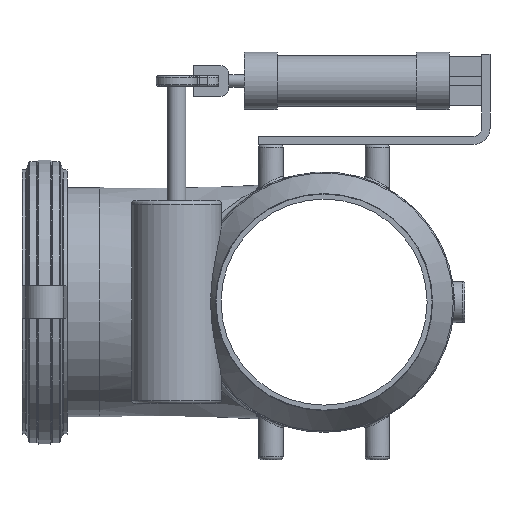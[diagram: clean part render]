
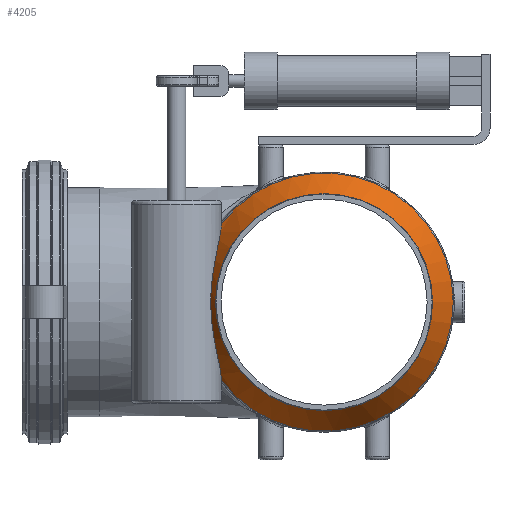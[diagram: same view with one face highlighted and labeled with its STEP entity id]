
A CAD part, left-side view. The second image highlights one B-rep face of the part: STEP entity #4205.
In plain terms, the highlighted conical face has half-angle 30 degrees and reference radius 184.256 mm.
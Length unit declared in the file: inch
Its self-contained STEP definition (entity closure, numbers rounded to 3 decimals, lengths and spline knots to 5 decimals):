
#80=CONICAL_SURFACE('',#4642,7.25419,0.524);
#182=B_SPLINE_CURVE_WITH_KNOTS('',3,(#8837,#8838,#8839,#8840,#8841,#8842,
#8843,#8844,#8845,#8846,#8847,#8848,#8849,#8850,#8851,#8852,#8853,#8854,
#8855,#8856,#8857,#8858,#8859,#8860,#8861,#8862,#8863,#8864,#8865,#8866),
 .UNSPECIFIED.,.F.,.F.,(4,2,2,2,2,2,2,2,2,2,2,2,2,2,4),(22.39908,
22.67746,25.83409,28.99072,30.56903,32.14734,
33.72566,35.30397,36.88228,38.4606,40.03891,
41.61723,44.77385,47.93048,48.20886),
 .UNSPECIFIED.);
#540=FACE_OUTER_BOUND('',#790,.T.);
#790=EDGE_LOOP('',(#3572,#3573,#3574,#3575,#3576,#3577,#3578,#3579));
#1032=LINE('',#9022,#1263);
#1263=VECTOR('',#5750,7.25419);
#1484=CIRCLE('',#4643,6.62546);
#1485=CIRCLE('',#4644,6.62546);
#1486=CIRCLE('',#4645,7.88292);
#1487=CIRCLE('',#4646,7.88292);
#1488=CIRCLE('',#4647,6.62546);
#1848=VERTEX_POINT('',#8827);
#1849=VERTEX_POINT('',#8836);
#1867=VERTEX_POINT('',#9016);
#1868=VERTEX_POINT('',#9017);
#1869=VERTEX_POINT('',#9019);
#1870=VERTEX_POINT('',#9021);
#2398=EDGE_CURVE('',#1849,#1848,#182,.T.);
#2447=EDGE_CURVE('',#1867,#1868,#1484,.T.);
#2448=EDGE_CURVE('',#1869,#1867,#1485,.T.);
#2449=EDGE_CURVE('',#1869,#1870,#1032,.T.);
#2450=EDGE_CURVE('',#1870,#1849,#1486,.T.);
#2451=EDGE_CURVE('',#1848,#1870,#1487,.T.);
#2452=EDGE_CURVE('',#1868,#1869,#1488,.T.);
#3572=ORIENTED_EDGE('',*,*,#2447,.F.);
#3573=ORIENTED_EDGE('',*,*,#2448,.F.);
#3574=ORIENTED_EDGE('',*,*,#2449,.T.);
#3575=ORIENTED_EDGE('',*,*,#2450,.T.);
#3576=ORIENTED_EDGE('',*,*,#2398,.T.);
#3577=ORIENTED_EDGE('',*,*,#2451,.T.);
#3578=ORIENTED_EDGE('',*,*,#2449,.F.);
#3579=ORIENTED_EDGE('',*,*,#2452,.F.);
#4205=ADVANCED_FACE('',(#540),#80,.T.);
#4642=AXIS2_PLACEMENT_3D('',#9015,#5744,#5745);
#4643=AXIS2_PLACEMENT_3D('',#9018,#5746,#5747);
#4644=AXIS2_PLACEMENT_3D('',#9020,#5748,#5749);
#4645=AXIS2_PLACEMENT_3D('',#9023,#5751,#5752);
#4646=AXIS2_PLACEMENT_3D('',#9024,#5753,#5754);
#4647=AXIS2_PLACEMENT_3D('',#9025,#5755,#5756);
#5744=DIRECTION('center_axis',(1.,0.,0.));
#5745=DIRECTION('ref_axis',(0.,1.,0.));
#5746=DIRECTION('center_axis',(-1.,0.,0.));
#5747=DIRECTION('ref_axis',(0.,0.,1.));
#5748=DIRECTION('center_axis',(-1.,0.,0.));
#5749=DIRECTION('ref_axis',(0.,0.,1.));
#5750=DIRECTION('',(0.866,-0.5,0.));
#5751=DIRECTION('center_axis',(-1.,0.,0.));
#5752=DIRECTION('ref_axis',(0.,0.,1.));
#5753=DIRECTION('center_axis',(-1.,0.,0.));
#5754=DIRECTION('ref_axis',(0.,0.,1.));
#5755=DIRECTION('center_axis',(-1.,0.,0.));
#5756=DIRECTION('ref_axis',(0.,0.,1.));
#8827=CARTESIAN_POINT('',(-6.86618,6.26246,-4.78769));
#8836=CARTESIAN_POINT('',(-6.86618,6.26246,4.78769));
#8837=CARTESIAN_POINT('Ctrl Pts',(-6.86618,6.26246,4.78769));
#8838=CARTESIAN_POINT('Ctrl Pts',(-6.89253,6.26358,4.76118));
#8839=CARTESIAN_POINT('Ctrl Pts',(-6.91828,6.26506,4.73463));
#8840=CARTESIAN_POINT('Ctrl Pts',(-7.22797,6.28697,4.40779));
#8841=CARTESIAN_POINT('Ctrl Pts',(-7.47308,6.34813,4.07005));
#8842=CARTESIAN_POINT('Ctrl Pts',(-7.8839,6.4961,3.33883));
#8843=CARTESIAN_POINT('Ctrl Pts',(-8.04907,6.58294,2.94504));
#8844=CARTESIAN_POINT('Ctrl Pts',(-8.23974,6.69917,2.33023));
#8845=CARTESIAN_POINT('Ctrl Pts',(-8.29391,6.7357,2.12122));
#8846=CARTESIAN_POINT('Ctrl Pts',(-8.3848,6.80042,1.69864));
#8847=CARTESIAN_POINT('Ctrl Pts',(-8.42153,6.82861,1.48508));
#8848=CARTESIAN_POINT('Ctrl Pts',(-8.4791,6.87417,1.05731));
#8849=CARTESIAN_POINT('Ctrl Pts',(-8.49995,6.89154,0.84308));
#8850=CARTESIAN_POINT('Ctrl Pts',(-8.52728,6.91453,0.41799));
#8851=CARTESIAN_POINT('Ctrl Pts',(-8.53376,6.92015,0.20713));
#8852=CARTESIAN_POINT('Ctrl Pts',(-8.53376,6.92015,-0.20713));
#8853=CARTESIAN_POINT('Ctrl Pts',(-8.52728,6.91453,-0.41799));
#8854=CARTESIAN_POINT('Ctrl Pts',(-8.49995,6.89154,-0.84308));
#8855=CARTESIAN_POINT('Ctrl Pts',(-8.4791,6.87417,-1.05731));
#8856=CARTESIAN_POINT('Ctrl Pts',(-8.42153,6.82861,-1.48508));
#8857=CARTESIAN_POINT('Ctrl Pts',(-8.3848,6.80042,-1.69864));
#8858=CARTESIAN_POINT('Ctrl Pts',(-8.29391,6.7357,-2.12122));
#8859=CARTESIAN_POINT('Ctrl Pts',(-8.23974,6.69917,-2.33023));
#8860=CARTESIAN_POINT('Ctrl Pts',(-8.04907,6.58294,-2.94504));
#8861=CARTESIAN_POINT('Ctrl Pts',(-7.8839,6.4961,-3.33883));
#8862=CARTESIAN_POINT('Ctrl Pts',(-7.47308,6.34813,-4.07005));
#8863=CARTESIAN_POINT('Ctrl Pts',(-7.22797,6.28697,-4.40779));
#8864=CARTESIAN_POINT('Ctrl Pts',(-6.91828,6.26506,-4.73463));
#8865=CARTESIAN_POINT('Ctrl Pts',(-6.89253,6.26358,-4.76118));
#8866=CARTESIAN_POINT('Ctrl Pts',(-6.86618,6.26246,-4.78769));
#9015=CARTESIAN_POINT('Origin',(-7.95518,0.,0.));
#9016=CARTESIAN_POINT('',(-9.04418,6.62546,0.));
#9017=CARTESIAN_POINT('',(-9.04418,0.,-6.62546));
#9018=CARTESIAN_POINT('Origin',(-9.04418,0.,0.));
#9019=CARTESIAN_POINT('',(-9.04418,-6.62546,0.));
#9020=CARTESIAN_POINT('Origin',(-9.04418,0.,0.));
#9021=CARTESIAN_POINT('',(-6.86618,-7.88292,0.));
#9022=CARTESIAN_POINT('',(-7.95518,-7.25419,0.));
#9023=CARTESIAN_POINT('Origin',(-6.86618,0.,0.));
#9024=CARTESIAN_POINT('Origin',(-6.86618,0.,0.));
#9025=CARTESIAN_POINT('Origin',(-9.04418,0.,0.));
